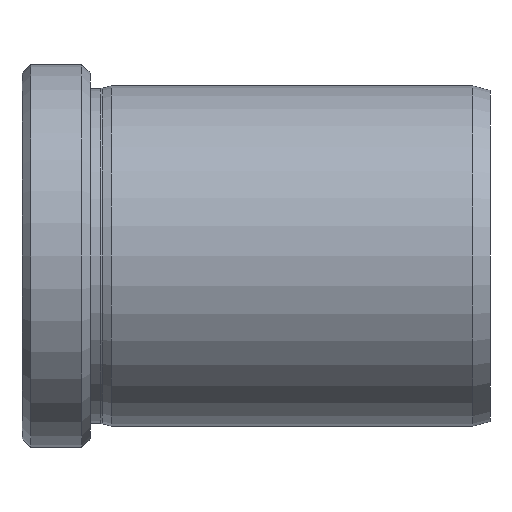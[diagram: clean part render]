
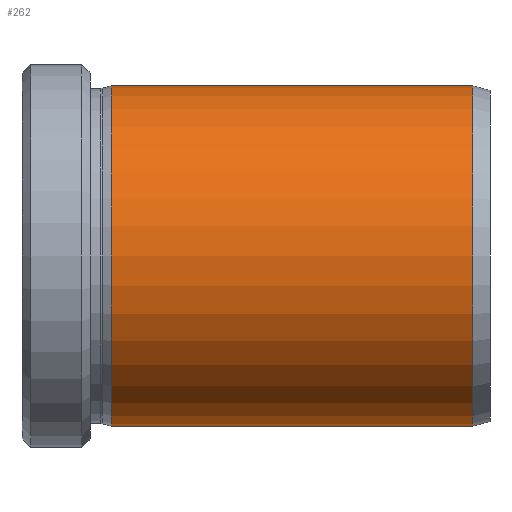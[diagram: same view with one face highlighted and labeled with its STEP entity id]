
A CAD part, front view. The second image highlights one B-rep face of the part: STEP entity #262.
In plain terms, the highlighted cylindrical face has radius 20 mm (diameter 40 mm), a partial arc.
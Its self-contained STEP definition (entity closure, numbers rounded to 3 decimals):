
#6 = ORIENTED_EDGE ( 'NONE', *, *, #43, .T. ) ;
#7 = DIRECTION ( 'NONE',  ( -1., 0., 0. ) ) ;
#9 = EDGE_LOOP ( 'NONE', ( #39, #582, #6, #210 ) ) ;
#13 = FACE_OUTER_BOUND ( 'NONE', #9, .T. ) ;
#23 = CARTESIAN_POINT ( 'NONE',  ( 21.3, 0., 20. ) ) ;
#28 = EDGE_CURVE ( 'NONE', #130, #531, #488, .T. ) ;
#39 = ORIENTED_EDGE ( 'NONE', *, *, #563, .F. ) ;
#43 = EDGE_CURVE ( 'NONE', #249, #531, #221, .T. ) ;
#82 = AXIS2_PLACEMENT_3D ( 'NONE', #359, #7, #306 ) ;
#104 = EDGE_CURVE ( 'NONE', #483, #249, #574, .T. ) ;
#125 = CARTESIAN_POINT ( 'NONE',  ( 63.8, 0., -20. ) ) ;
#130 = VERTEX_POINT ( 'NONE', #454 ) ;
#210 = ORIENTED_EDGE ( 'NONE', *, *, #28, .F. ) ;
#221 = LINE ( 'NONE', #285, #506 ) ;
#227 = VECTOR ( 'NONE', #317, 1000. ) ;
#247 = AXIS2_PLACEMENT_3D ( 'NONE', #283, #646, #634 ) ;
#249 = VERTEX_POINT ( 'NONE', #632 ) ;
#262 = ADVANCED_FACE ( 'NONE', ( #13 ), #404, .T. ) ;
#283 = CARTESIAN_POINT ( 'NONE',  ( 0., 0., 0. ) ) ;
#285 = CARTESIAN_POINT ( 'NONE',  ( 0., 0., 20. ) ) ;
#306 = DIRECTION ( 'NONE',  ( 0., 0., 1. ) ) ;
#317 = DIRECTION ( 'NONE',  ( -1., 0., 0. ) ) ;
#359 = CARTESIAN_POINT ( 'NONE',  ( 63.8, 0., 0. ) ) ;
#395 = DIRECTION ( 'NONE',  ( 0., 0., 1. ) ) ;
#404 = CYLINDRICAL_SURFACE ( 'NONE', #247, 20. ) ;
#441 = DIRECTION ( 'NONE',  ( -1., 0., 0. ) ) ;
#454 = CARTESIAN_POINT ( 'NONE',  ( 21.3, 0., -20. ) ) ;
#483 = VERTEX_POINT ( 'NONE', #125 ) ;
#488 = CIRCLE ( 'NONE', #631, 20. ) ;
#492 = CARTESIAN_POINT ( 'NONE',  ( 21.3, 0., 0. ) ) ;
#498 = LINE ( 'NONE', #580, #227 ) ;
#506 = VECTOR ( 'NONE', #536, 1000. ) ;
#531 = VERTEX_POINT ( 'NONE', #23 ) ;
#536 = DIRECTION ( 'NONE',  ( -1., 0., 0. ) ) ;
#563 = EDGE_CURVE ( 'NONE', #483, #130, #498, .T. ) ;
#574 = CIRCLE ( 'NONE', #82, 20. ) ;
#580 = CARTESIAN_POINT ( 'NONE',  ( 0., 0., -20. ) ) ;
#582 = ORIENTED_EDGE ( 'NONE', *, *, #104, .T. ) ;
#631 = AXIS2_PLACEMENT_3D ( 'NONE', #492, #441, #395 ) ;
#632 = CARTESIAN_POINT ( 'NONE',  ( 63.8, 0., 20. ) ) ;
#634 = DIRECTION ( 'NONE',  ( 0., 0., 1. ) ) ;
#646 = DIRECTION ( 'NONE',  ( -1., 0., 0. ) ) ;
